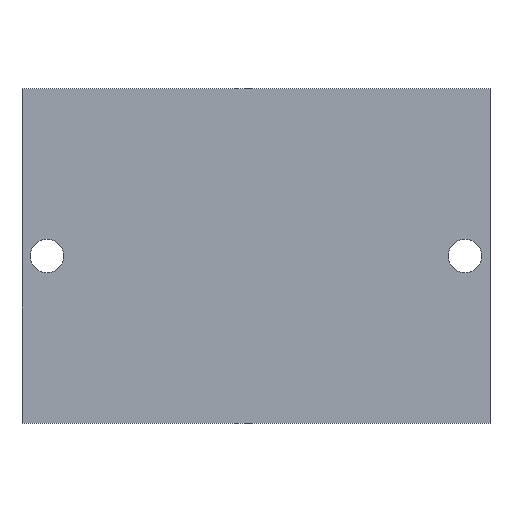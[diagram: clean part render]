
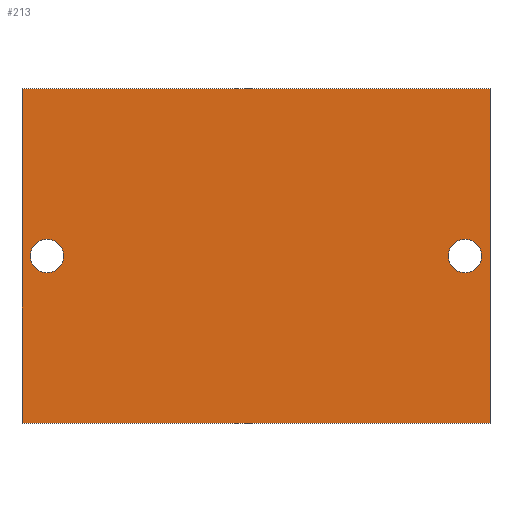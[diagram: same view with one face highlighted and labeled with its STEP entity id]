
A CAD part, top view. The second image highlights one B-rep face of the part: STEP entity #213.
In plain terms, the highlighted planar face has unit normal (0, 0, 1).
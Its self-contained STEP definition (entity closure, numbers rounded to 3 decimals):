
#21 = EDGE_CURVE('',#22,#24,#26,.T.);
#22 = VERTEX_POINT('',#23);
#23 = CARTESIAN_POINT('',(-73.,-55.,59.));
#24 = VERTEX_POINT('',#25);
#25 = CARTESIAN_POINT('',(-73.,-75.,59.));
#26 = SURFACE_CURVE('',#27,(#31,#43),.PCURVE_S1.);
#27 = LINE('',#28,#29);
#28 = CARTESIAN_POINT('',(-73.,-75.,59.));
#29 = VECTOR('',#30,1.);
#30 = DIRECTION('',(0.,-1.,0.));
#31 = PCURVE('',#32,#37);
#32 = PLANE('',#33);
#33 = AXIS2_PLACEMENT_3D('',#34,#35,#36);
#34 = CARTESIAN_POINT('',(-73.,-75.,56.));
#35 = DIRECTION('',(1.,0.,0.));
#36 = DIRECTION('',(0.,0.,1.));
#37 = DEFINITIONAL_REPRESENTATION('',(#38),#42);
#38 = LINE('',#39,#40);
#39 = CARTESIAN_POINT('',(3.,0.));
#40 = VECTOR('',#41,1.);
#41 = DIRECTION('',(0.,1.));
#42 = ( GEOMETRIC_REPRESENTATION_CONTEXT(2) 
PARAMETRIC_REPRESENTATION_CONTEXT() REPRESENTATION_CONTEXT('2D SPACE',''
  ) );
#43 = PCURVE('',#44,#49);
#44 = PLANE('',#45);
#45 = AXIS2_PLACEMENT_3D('',#46,#47,#48);
#46 = CARTESIAN_POINT('',(-73.,-75.,59.));
#47 = DIRECTION('',(0.,0.,1.));
#48 = DIRECTION('',(1.,0.,0.));
#49 = DEFINITIONAL_REPRESENTATION('',(#50),#54);
#50 = LINE('',#51,#52);
#51 = CARTESIAN_POINT('',(0.,0.));
#52 = VECTOR('',#53,1.);
#53 = DIRECTION('',(0.,-1.));
#54 = ( GEOMETRIC_REPRESENTATION_CONTEXT(2) 
PARAMETRIC_REPRESENTATION_CONTEXT() REPRESENTATION_CONTEXT('2D SPACE',''
  ) );
#72 = PLANE('',#73);
#73 = AXIS2_PLACEMENT_3D('',#74,#75,#76);
#74 = CARTESIAN_POINT('',(-73.,-55.,56.));
#75 = DIRECTION('',(0.,1.,0.));
#76 = DIRECTION('',(0.,0.,1.));
#126 = PLANE('',#127);
#127 = AXIS2_PLACEMENT_3D('',#128,#129,#130);
#128 = CARTESIAN_POINT('',(-73.,-75.,56.));
#129 = DIRECTION('',(0.,1.,0.));
#130 = DIRECTION('',(0.,0.,1.));
#144 = VERTEX_POINT('',#145);
#145 = CARTESIAN_POINT('',(-45.,-75.,59.));
#159 = PLANE('',#160);
#160 = AXIS2_PLACEMENT_3D('',#161,#162,#163);
#161 = CARTESIAN_POINT('',(-45.,-75.,56.));
#162 = DIRECTION('',(1.,0.,0.));
#163 = DIRECTION('',(0.,0.,1.));
#171 = EDGE_CURVE('',#24,#144,#172,.T.);
#172 = SURFACE_CURVE('',#173,(#177,#184),.PCURVE_S1.);
#173 = LINE('',#174,#175);
#174 = CARTESIAN_POINT('',(-73.,-75.,59.));
#175 = VECTOR('',#176,1.);
#176 = DIRECTION('',(1.,0.,0.));
#177 = PCURVE('',#126,#178);
#178 = DEFINITIONAL_REPRESENTATION('',(#179),#183);
#179 = LINE('',#180,#181);
#180 = CARTESIAN_POINT('',(3.,0.));
#181 = VECTOR('',#182,1.);
#182 = DIRECTION('',(0.,1.));
#183 = ( GEOMETRIC_REPRESENTATION_CONTEXT(2) 
PARAMETRIC_REPRESENTATION_CONTEXT() REPRESENTATION_CONTEXT('2D SPACE',''
  ) );
#184 = PCURVE('',#44,#185);
#185 = DEFINITIONAL_REPRESENTATION('',(#186),#190);
#186 = LINE('',#187,#188);
#187 = CARTESIAN_POINT('',(0.,0.));
#188 = VECTOR('',#189,1.);
#189 = DIRECTION('',(1.,0.));
#190 = ( GEOMETRIC_REPRESENTATION_CONTEXT(2) 
PARAMETRIC_REPRESENTATION_CONTEXT() REPRESENTATION_CONTEXT('2D SPACE',''
  ) );
#213 = ADVANCED_FACE('',(#214,#262,#293),#44,.T.);
#214 = FACE_BOUND('',#215,.T.);
#215 = EDGE_LOOP('',(#216,#217,#218,#241));
#216 = ORIENTED_EDGE('',*,*,#21,.T.);
#217 = ORIENTED_EDGE('',*,*,#171,.T.);
#218 = ORIENTED_EDGE('',*,*,#219,.T.);
#219 = EDGE_CURVE('',#144,#220,#222,.T.);
#220 = VERTEX_POINT('',#221);
#221 = CARTESIAN_POINT('',(-45.,-55.,59.));
#222 = SURFACE_CURVE('',#223,(#227,#234),.PCURVE_S1.);
#223 = LINE('',#224,#225);
#224 = CARTESIAN_POINT('',(-45.,-75.,59.));
#225 = VECTOR('',#226,1.);
#226 = DIRECTION('',(0.,1.,0.));
#227 = PCURVE('',#44,#228);
#228 = DEFINITIONAL_REPRESENTATION('',(#229),#233);
#229 = LINE('',#230,#231);
#230 = CARTESIAN_POINT('',(28.,0.));
#231 = VECTOR('',#232,1.);
#232 = DIRECTION('',(0.,1.));
#233 = ( GEOMETRIC_REPRESENTATION_CONTEXT(2) 
PARAMETRIC_REPRESENTATION_CONTEXT() REPRESENTATION_CONTEXT('2D SPACE',''
  ) );
#234 = PCURVE('',#159,#235);
#235 = DEFINITIONAL_REPRESENTATION('',(#236),#240);
#236 = LINE('',#237,#238);
#237 = CARTESIAN_POINT('',(3.,0.));
#238 = VECTOR('',#239,1.);
#239 = DIRECTION('',(0.,-1.));
#240 = ( GEOMETRIC_REPRESENTATION_CONTEXT(2) 
PARAMETRIC_REPRESENTATION_CONTEXT() REPRESENTATION_CONTEXT('2D SPACE',''
  ) );
#241 = ORIENTED_EDGE('',*,*,#242,.F.);
#242 = EDGE_CURVE('',#22,#220,#243,.T.);
#243 = SURFACE_CURVE('',#244,(#248,#255),.PCURVE_S1.);
#244 = LINE('',#245,#246);
#245 = CARTESIAN_POINT('',(-73.,-55.,59.));
#246 = VECTOR('',#247,1.);
#247 = DIRECTION('',(1.,0.,0.));
#248 = PCURVE('',#44,#249);
#249 = DEFINITIONAL_REPRESENTATION('',(#250),#254);
#250 = LINE('',#251,#252);
#251 = CARTESIAN_POINT('',(0.,20.));
#252 = VECTOR('',#253,1.);
#253 = DIRECTION('',(1.,0.));
#254 = ( GEOMETRIC_REPRESENTATION_CONTEXT(2) 
PARAMETRIC_REPRESENTATION_CONTEXT() REPRESENTATION_CONTEXT('2D SPACE',''
  ) );
#255 = PCURVE('',#72,#256);
#256 = DEFINITIONAL_REPRESENTATION('',(#257),#261);
#257 = LINE('',#258,#259);
#258 = CARTESIAN_POINT('',(3.,0.));
#259 = VECTOR('',#260,1.);
#260 = DIRECTION('',(0.,1.));
#261 = ( GEOMETRIC_REPRESENTATION_CONTEXT(2) 
PARAMETRIC_REPRESENTATION_CONTEXT() REPRESENTATION_CONTEXT('2D SPACE',''
  ) );
#262 = FACE_BOUND('',#263,.T.);
#263 = EDGE_LOOP('',(#264));
#264 = ORIENTED_EDGE('',*,*,#265,.F.);
#265 = EDGE_CURVE('',#266,#266,#268,.T.);
#266 = VERTEX_POINT('',#267);
#267 = CARTESIAN_POINT('',(-70.5,-65.,59.));
#268 = SURFACE_CURVE('',#269,(#274,#281),.PCURVE_S1.);
#269 = CIRCLE('',#270,1.);
#270 = AXIS2_PLACEMENT_3D('',#271,#272,#273);
#271 = CARTESIAN_POINT('',(-71.5,-65.,59.));
#272 = DIRECTION('',(0.,0.,1.));
#273 = DIRECTION('',(1.,0.,0.));
#274 = PCURVE('',#44,#275);
#275 = DEFINITIONAL_REPRESENTATION('',(#276),#280);
#276 = CIRCLE('',#277,1.);
#277 = AXIS2_PLACEMENT_2D('',#278,#279);
#278 = CARTESIAN_POINT('',(1.5,10.));
#279 = DIRECTION('',(1.,0.));
#280 = ( GEOMETRIC_REPRESENTATION_CONTEXT(2) 
PARAMETRIC_REPRESENTATION_CONTEXT() REPRESENTATION_CONTEXT('2D SPACE',''
  ) );
#281 = PCURVE('',#282,#287);
#282 = CYLINDRICAL_SURFACE('',#283,1.);
#283 = AXIS2_PLACEMENT_3D('',#284,#285,#286);
#284 = CARTESIAN_POINT('',(-71.5,-65.,30.));
#285 = DIRECTION('',(0.,0.,1.));
#286 = DIRECTION('',(1.,0.,0.));
#287 = DEFINITIONAL_REPRESENTATION('',(#288),#292);
#288 = LINE('',#289,#290);
#289 = CARTESIAN_POINT('',(0.,29.));
#290 = VECTOR('',#291,1.);
#291 = DIRECTION('',(1.,0.));
#292 = ( GEOMETRIC_REPRESENTATION_CONTEXT(2) 
PARAMETRIC_REPRESENTATION_CONTEXT() REPRESENTATION_CONTEXT('2D SPACE',''
  ) );
#293 = FACE_BOUND('',#294,.T.);
#294 = EDGE_LOOP('',(#295));
#295 = ORIENTED_EDGE('',*,*,#296,.F.);
#296 = EDGE_CURVE('',#297,#297,#299,.T.);
#297 = VERTEX_POINT('',#298);
#298 = CARTESIAN_POINT('',(-45.5,-65.,59.));
#299 = SURFACE_CURVE('',#300,(#305,#312),.PCURVE_S1.);
#300 = CIRCLE('',#301,1.);
#301 = AXIS2_PLACEMENT_3D('',#302,#303,#304);
#302 = CARTESIAN_POINT('',(-46.5,-65.,59.));
#303 = DIRECTION('',(0.,0.,1.));
#304 = DIRECTION('',(1.,0.,0.));
#305 = PCURVE('',#44,#306);
#306 = DEFINITIONAL_REPRESENTATION('',(#307),#311);
#307 = CIRCLE('',#308,1.);
#308 = AXIS2_PLACEMENT_2D('',#309,#310);
#309 = CARTESIAN_POINT('',(26.5,10.));
#310 = DIRECTION('',(1.,0.));
#311 = ( GEOMETRIC_REPRESENTATION_CONTEXT(2) 
PARAMETRIC_REPRESENTATION_CONTEXT() REPRESENTATION_CONTEXT('2D SPACE',''
  ) );
#312 = PCURVE('',#313,#318);
#313 = CYLINDRICAL_SURFACE('',#314,1.);
#314 = AXIS2_PLACEMENT_3D('',#315,#316,#317);
#315 = CARTESIAN_POINT('',(-46.5,-65.,30.));
#316 = DIRECTION('',(0.,0.,1.));
#317 = DIRECTION('',(1.,0.,0.));
#318 = DEFINITIONAL_REPRESENTATION('',(#319),#323);
#319 = LINE('',#320,#321);
#320 = CARTESIAN_POINT('',(0.,29.));
#321 = VECTOR('',#322,1.);
#322 = DIRECTION('',(1.,0.));
#323 = ( GEOMETRIC_REPRESENTATION_CONTEXT(2) 
PARAMETRIC_REPRESENTATION_CONTEXT() REPRESENTATION_CONTEXT('2D SPACE',''
  ) );
